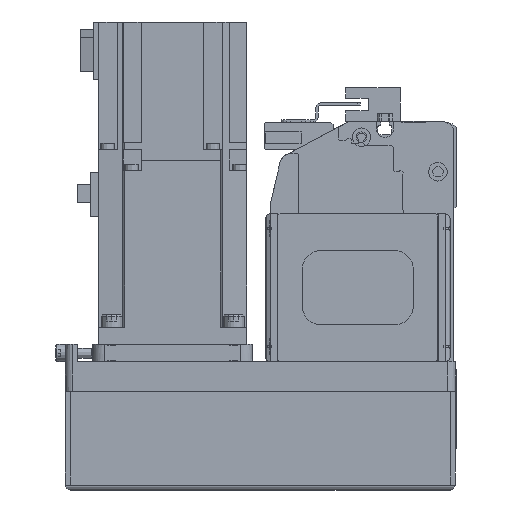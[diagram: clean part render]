
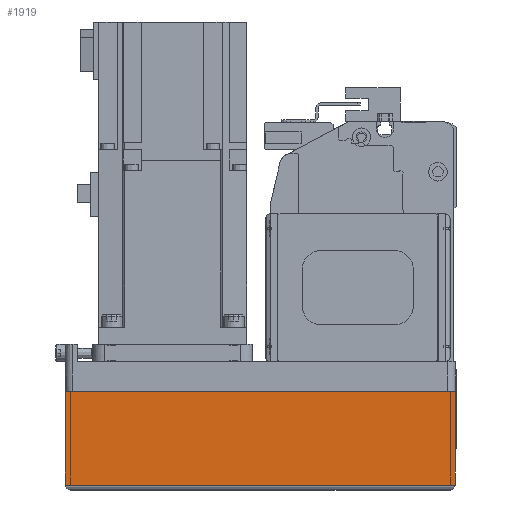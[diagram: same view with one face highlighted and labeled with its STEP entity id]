
A CAD part, left-side view. The second image highlights one B-rep face of the part: STEP entity #1919.
In plain terms, the highlighted planar face has unit normal (-1, 0, 0) as drawn and (0, -1, 0) by its records, which use the part's own axes.
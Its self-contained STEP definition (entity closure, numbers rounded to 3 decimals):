
#1919 = ADVANCED_FACE( '', ( #4703 ), #4704, .T. );
#4703 = FACE_OUTER_BOUND( '', #8630, .T. );
#4704 = PLANE( '', #8631 );
#8630 = EDGE_LOOP( '', ( #14221, #14222, #14223, #14224 ) );
#8631 = AXIS2_PLACEMENT_3D( '', #14225, #14226, #14227 );
#14221 = ORIENTED_EDGE( '', *, *, #23205, .F. );
#14222 = ORIENTED_EDGE( '', *, *, #23206, .F. );
#14223 = ORIENTED_EDGE( '', *, *, #23207, .T. );
#14224 = ORIENTED_EDGE( '', *, *, #23208, .T. );
#14225 = CARTESIAN_POINT( '', ( -158., -39., -12.1 ) );
#14226 = DIRECTION( '', ( 0., -1., 0. ) );
#14227 = DIRECTION( '', ( 0., 0., -1. ) );
#23205 = EDGE_CURVE( '', #28219, #28220, #28221, .T. );
#23206 = EDGE_CURVE( '', #28222, #28219, #28223, .T. );
#23207 = EDGE_CURVE( '', #28222, #28224, #28225, .T. );
#23208 = EDGE_CURVE( '', #28224, #28220, #28226, .T. );
#28219 = VERTEX_POINT( '', #35451 );
#28220 = VERTEX_POINT( '', #35452 );
#28221 = LINE( '', #35453, #35454 );
#28222 = VERTEX_POINT( '', #35455 );
#28223 = LINE( '', #35456, #35457 );
#28224 = VERTEX_POINT( '', #35458 );
#28225 = LINE( '', #35459, #35460 );
#28226 = LINE( '', #35461, #35462 );
#35451 = CARTESIAN_POINT( '', ( 0., -39., -12.1 ) );
#35452 = CARTESIAN_POINT( '', ( 0., -39., -50. ) );
#35453 = CARTESIAN_POINT( '', ( 0., -39., -12.1 ) );
#35454 = VECTOR( '', #42818, 1000. );
#35455 = CARTESIAN_POINT( '', ( -158., -39., -12.1 ) );
#35456 = CARTESIAN_POINT( '', ( -158., -39., -12.1 ) );
#35457 = VECTOR( '', #42819, 1000. );
#35458 = CARTESIAN_POINT( '', ( -158., -39., -50. ) );
#35459 = CARTESIAN_POINT( '', ( -158., -39., -12.1 ) );
#35460 = VECTOR( '', #42820, 1000. );
#35461 = CARTESIAN_POINT( '', ( -158., -39., -50. ) );
#35462 = VECTOR( '', #42821, 1000. );
#42818 = DIRECTION( '', ( 0., 0., -1. ) );
#42819 = DIRECTION( '', ( 1., 0., 0. ) );
#42820 = DIRECTION( '', ( 0., 0., -1. ) );
#42821 = DIRECTION( '', ( 1., 0., 0. ) );
